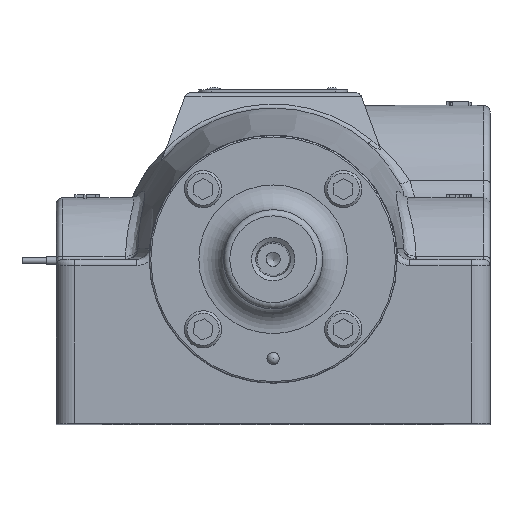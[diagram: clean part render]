
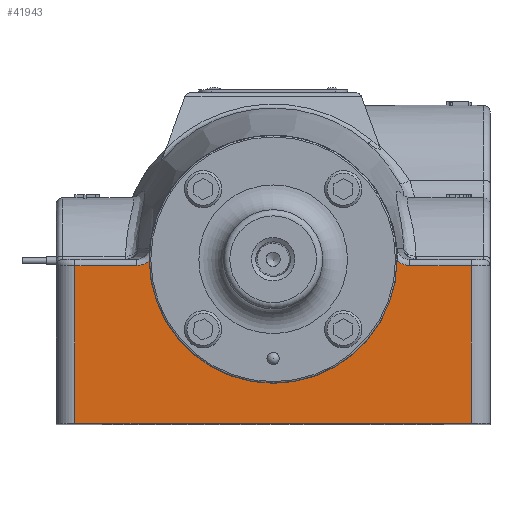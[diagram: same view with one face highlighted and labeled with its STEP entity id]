
A CAD part, top view. The second image highlights one B-rep face of the part: STEP entity #41943.
In plain terms, the highlighted planar face has unit normal (0, 0, 1).
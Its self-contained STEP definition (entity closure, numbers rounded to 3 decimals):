
#2988=CIRCLE('',#45792,3.178);
#5546=FACE_OUTER_BOUND('',#8134,.T.);
#8134=EDGE_LOOP('',(#32638,#32639,#32640,#32641,#32642,#32643,#32644,#32645));
#11057=LINE('',#70403,#13615);
#11058=LINE('',#70405,#13616);
#11059=LINE('',#70407,#13617);
#11060=LINE('',#70422,#13618);
#11061=LINE('',#70423,#13619);
#13615=VECTOR('',#54998,1.);
#13616=VECTOR('',#54999,1.);
#13617=VECTOR('',#55000,1.);
#13618=VECTOR('',#55003,1.);
#13619=VECTOR('',#55004,1.);
#14749=B_SPLINE_CURVE_WITH_KNOTS('',3,(#70409,#70410,#70411,#70412),
 .UNSPECIFIED.,.F.,.F.,(4,4),(0.356,0.703),
 .UNSPECIFIED.);
#14750=B_SPLINE_CURVE_WITH_KNOTS('',3,(#70416,#70417,#70418,#70419,#70420),
 .UNSPECIFIED.,.F.,.F.,(4,1,4),(0.,0.291,0.347),
 .UNSPECIFIED.);
#17813=VERTEX_POINT('',#70401);
#17814=VERTEX_POINT('',#70402);
#17815=VERTEX_POINT('',#70404);
#17816=VERTEX_POINT('',#70406);
#17817=VERTEX_POINT('',#70408);
#17818=VERTEX_POINT('',#70413);
#17819=VERTEX_POINT('',#70415);
#17820=VERTEX_POINT('',#70421);
#22948=EDGE_CURVE('',#17813,#17814,#11057,.T.);
#22949=EDGE_CURVE('',#17815,#17813,#11058,.T.);
#22950=EDGE_CURVE('',#17816,#17815,#11059,.T.);
#22951=EDGE_CURVE('',#17817,#17816,#14749,.T.);
#22952=EDGE_CURVE('',#17818,#17817,#2988,.T.);
#22953=EDGE_CURVE('',#17819,#17818,#14750,.T.);
#22954=EDGE_CURVE('',#17820,#17819,#11060,.T.);
#22955=EDGE_CURVE('',#17814,#17820,#11061,.T.);
#32638=ORIENTED_EDGE('',*,*,#22948,.F.);
#32639=ORIENTED_EDGE('',*,*,#22949,.F.);
#32640=ORIENTED_EDGE('',*,*,#22950,.F.);
#32641=ORIENTED_EDGE('',*,*,#22951,.F.);
#32642=ORIENTED_EDGE('',*,*,#22952,.F.);
#32643=ORIENTED_EDGE('',*,*,#22953,.F.);
#32644=ORIENTED_EDGE('',*,*,#22954,.F.);
#32645=ORIENTED_EDGE('',*,*,#22955,.F.);
#37858=PLANE('',#45791);
#41943=ADVANCED_FACE('',(#5546),#37858,.T.);
#45791=AXIS2_PLACEMENT_3D('',#70400,#54996,#54997);
#45792=AXIS2_PLACEMENT_3D('',#70414,#55001,#55002);
#54996=DIRECTION('center_axis',(0.,0.,1.));
#54997=DIRECTION('ref_axis',(1.,0.,0.));
#54998=DIRECTION('',(-1.,0.,0.));
#54999=DIRECTION('',(0.,-1.,0.));
#55000=DIRECTION('',(1.,0.,0.));
#55001=DIRECTION('center_axis',(0.,0.,1.));
#55002=DIRECTION('ref_axis',(-1.,0.,0.));
#55003=DIRECTION('',(1.,0.,0.));
#55004=DIRECTION('',(0.,1.,0.));
#70400=CARTESIAN_POINT('Origin',(0.,-4.286,8.652));
#70401=CARTESIAN_POINT('',(5.08,-4.206,8.652));
#70402=CARTESIAN_POINT('',(-5.08,-4.206,8.652));
#70403=CARTESIAN_POINT('',(0.,-4.206,8.652));
#70404=CARTESIAN_POINT('',(5.08,-0.159,8.652));
#70405=CARTESIAN_POINT('',(5.08,-3.215,8.652));
#70406=CARTESIAN_POINT('',(3.497,-0.159,8.652));
#70407=CARTESIAN_POINT('',(0.,-0.159,8.652));
#70408=CARTESIAN_POINT('',(3.177,-0.037,8.652));
#70409=CARTESIAN_POINT('Ctrl Pts',(3.178,-0.037,
8.652));
#70410=CARTESIAN_POINT('Ctrl Pts',(3.265,-0.114,
8.652));
#70411=CARTESIAN_POINT('Ctrl Pts',(3.381,-0.159,
8.652));
#70412=CARTESIAN_POINT('Ctrl Pts',(3.497,-0.159,
8.652));
#70413=CARTESIAN_POINT('',(-3.177,-0.037,8.652));
#70414=CARTESIAN_POINT('Origin',(0.,0.,8.652));
#70415=CARTESIAN_POINT('',(-3.497,-0.159,8.652));
#70416=CARTESIAN_POINT('Ctrl Pts',(-3.497,-0.159,
8.652));
#70417=CARTESIAN_POINT('Ctrl Pts',(-3.4,-0.159,
8.652));
#70418=CARTESIAN_POINT('Ctrl Pts',(-3.283,-0.122,
8.652));
#70419=CARTESIAN_POINT('Ctrl Pts',(-3.192,-0.05,
8.652));
#70420=CARTESIAN_POINT('Ctrl Pts',(-3.178,-0.037,
8.652));
#70421=CARTESIAN_POINT('',(-5.08,-0.159,8.652));
#70422=CARTESIAN_POINT('',(0.,-0.159,8.652));
#70423=CARTESIAN_POINT('',(-5.08,-3.215,8.652));
